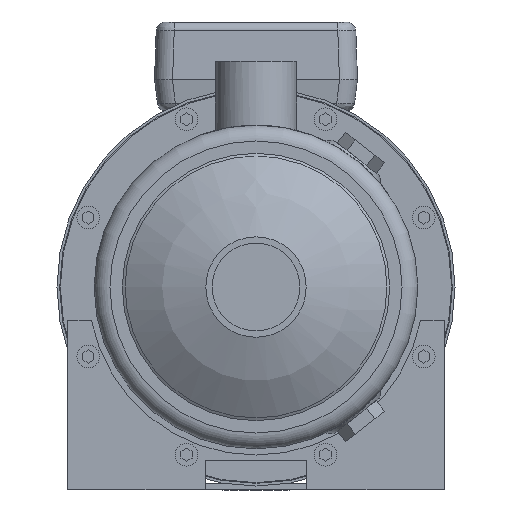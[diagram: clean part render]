
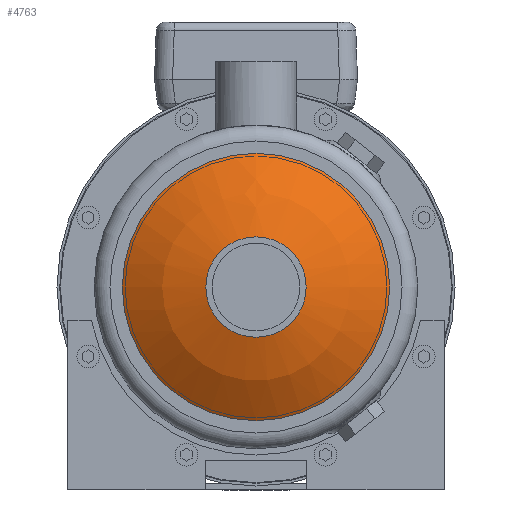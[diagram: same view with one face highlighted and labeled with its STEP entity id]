
A CAD part, left-side view. The second image highlights one B-rep face of the part: STEP entity #4763.
In plain terms, the highlighted spherical face has radius 100 mm.
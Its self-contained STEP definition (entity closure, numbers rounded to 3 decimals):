
#83=SPHERICAL_SURFACE('',#6416,100.);
#1088=ORIENTED_EDGE('',*,*,#2403,.T.);
#1089=ORIENTED_EDGE('',*,*,#2402,.F.);
#2402=EDGE_CURVE('',#3064,#3064,#3517,.T.);
#2403=EDGE_CURVE('',#3065,#3065,#3518,.T.);
#3064=VERTEX_POINT('',#8574);
#3065=VERTEX_POINT('',#8577);
#3517=CIRCLE('',#6415,22.25);
#3518=CIRCLE('',#6417,59.25);
#3735=EDGE_LOOP('',(#1088));
#3736=EDGE_LOOP('',(#1089));
#4167=FACE_BOUND('',#3735,.T.);
#4168=FACE_BOUND('',#3736,.T.);
#4763=ADVANCED_FACE('',(#4167,#4168),#83,.T.);
#6415=AXIS2_PLACEMENT_3D('',#8573,#7008,#7009);
#6416=AXIS2_PLACEMENT_3D('',#8575,#7010,#7011);
#6417=AXIS2_PLACEMENT_3D('',#8576,#7012,#7013);
#7008=DIRECTION('',(-1.,0.,0.));
#7009=DIRECTION('',(0.,0.,1.));
#7010=DIRECTION('',(-1.,0.,0.));
#7011=DIRECTION('',(0.,0.,1.));
#7012=DIRECTION('',(-1.,0.,0.));
#7013=DIRECTION('',(0.,0.,1.));
#8573=CARTESIAN_POINT('',(-43.293,0.,0.));
#8574=CARTESIAN_POINT('',(-43.293,0.,22.25));
#8575=CARTESIAN_POINT('',(54.2,0.,0.));
#8576=CARTESIAN_POINT('',(-26.357,0.,0.));
#8577=CARTESIAN_POINT('',(-26.357,0.,59.25));
